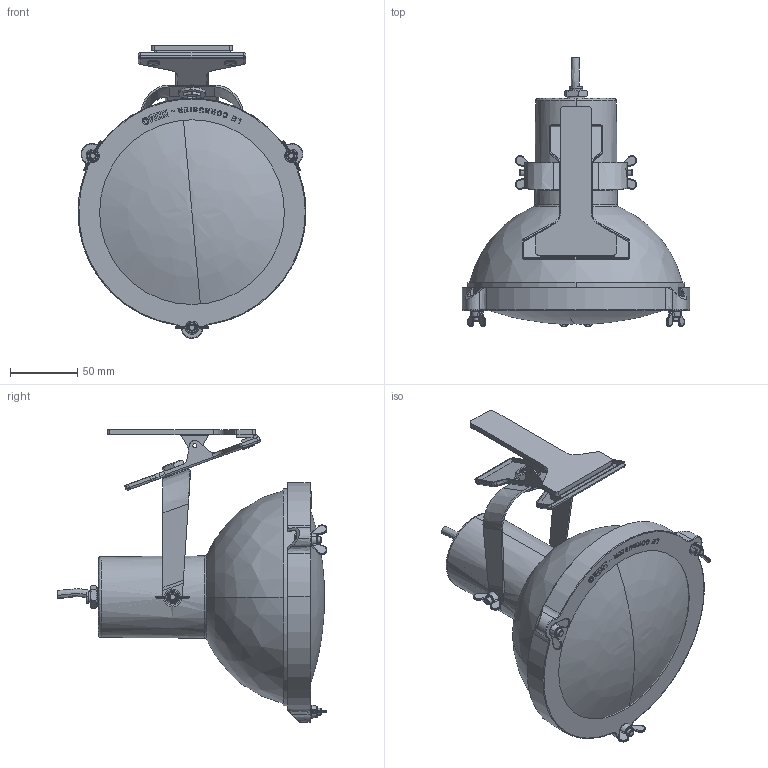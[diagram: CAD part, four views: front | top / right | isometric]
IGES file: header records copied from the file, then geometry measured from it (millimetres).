
Start section: SolidWorks IGES file using analytic representation for surfaces
Global section: file name: N:\- Ingeneria\DISEGNI\PRODOTTI\PROJECTEUR\PROJECTEUR 165\MORSETTO\800PRPFDW111.IGS; native system: SolidWorks 2016; preprocessor: SolidWorks 2016; author: gpinheiro; date: 160907.122309; units: millimetre
Bounding box: 169 x 200.12 x 217.27 mm (x, y, z)
Volume: 232697.5 mm3; surface area: 250196.2 mm2
Topology: 51 solids, 51 shells, 2502 faces, 6427 edges, 4060 vertices
Faces by surface type: revolution 1160, plane 1152, bspline 190
